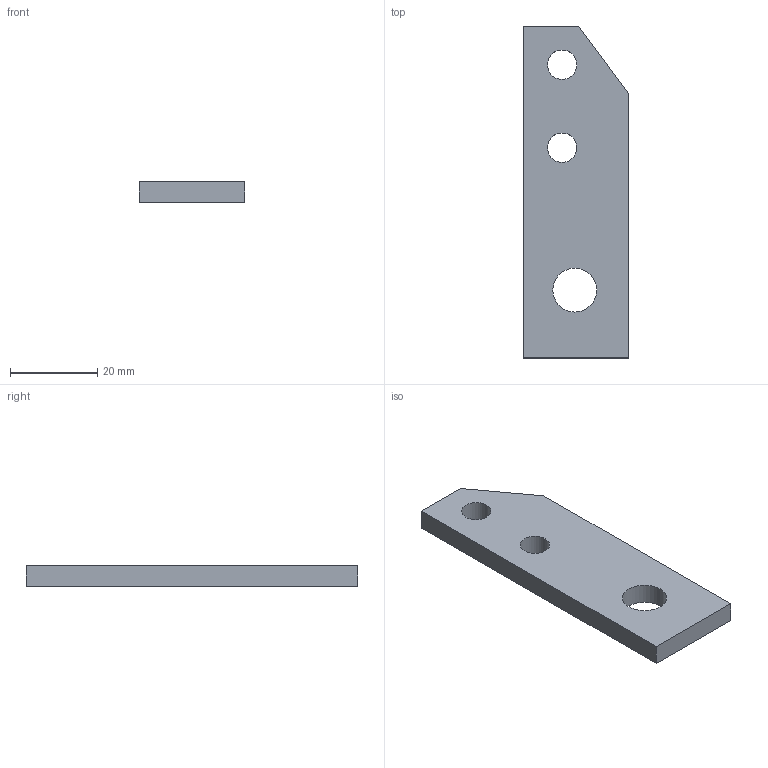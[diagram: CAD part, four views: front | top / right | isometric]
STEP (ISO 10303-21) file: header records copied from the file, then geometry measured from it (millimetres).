
FILE_DESCRIPTION(/* description */ (''),/* implementation_level */ '2;1');
FILE_NAME(/* name */ 'F:\Google Drive\Research\3d Printer Research\Feedstock Grinder\Ginder Parts\Negative Blade Spacer 2.step',/* time_stamp */ '2016-08-18T22:21:50-07:00',/* author */ ('Brenton'),/* organization */ (''),/* preprocessor_version */ 'ST-DEVELOPER v15.6',/* originating_system */ 'Autodesk Inventor 2015',/* authorisation */ '');
FILE_SCHEMA (('AUTOMOTIVE_DESIGN { 1 0 10303 214 3 1 1 }'));
Length unit declared in the file: inch
Products named in the file (1): neg blade spacer 2
Bounding box: 24.13 x 76.2 x 4.76 mm (x, y, z)
Volume: 7610.8 mm3; surface area: 4468.2 mm2
Topology: 1 solids, 1 shells, 10 faces, 24 edges, 16 vertices
Faces by surface type: plane 7, cylinder 3
Full cylindrical faces by diameter (mm): 6.756 x2, 10.084 x1
Entity records: 317 total; most frequent: DIRECTION 49, CARTESIAN_POINT 48, ORIENTED_EDGE 42, EDGE_CURVE 21, EDGE_LOOP 19, AXIS2_PLACEMENT_3D 17, VERTEX_POINT 16, LINE 15
